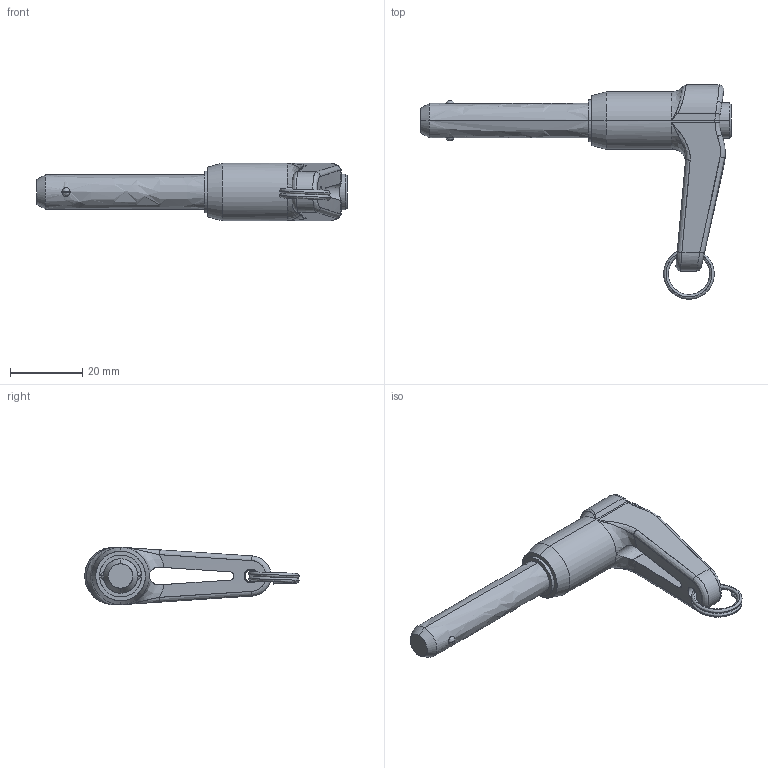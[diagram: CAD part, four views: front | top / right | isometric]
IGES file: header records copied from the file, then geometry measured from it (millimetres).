
Start section: SolidWorks IGES file using analytic representation for surfaces
Global section: file name: C:\Documents and Settings\IANO\My Documents\Wix and Auto CAD Work\CAD Models\Parametric Models\Wix Models\30000\33620_v2\33620_v2_20160606_IGES\33620.D015.igs; native system: SolidWorks 2009; preprocessor: SolidWorks 2009; author: IANO; date: 160615.125958; units: inch
Bounding box: 86.04 x 59.35 x 15.88 mm (x, y, z)
Surface area: 7962.4 mm2 (no closed solid volume)
Topology: 0 solids, 0 shells, 83 faces, 1217 edges, 1215 vertices
Faces by surface type: bspline 53, revolution 30
